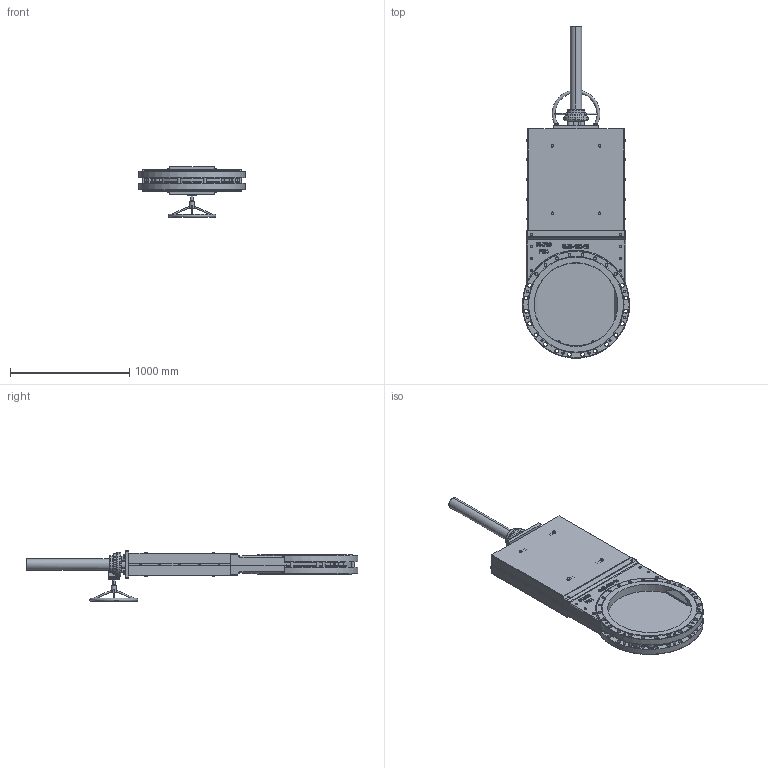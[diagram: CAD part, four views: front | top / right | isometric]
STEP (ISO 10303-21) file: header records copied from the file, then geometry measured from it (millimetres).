
FILE_DESCRIPTION(/* description */ (''),/* implementation_level */ '2;1');
FILE_NAME(/* name */ '明杆刀阀带齿轮箱DN700简图.stp',/* time_stamp */ '2025-12-22T17:52:15+08:00',/* author */ (''),/* organization */ (''),/* preprocessor_version */ 'ST-DEVELOPER v15',/* originating_system */ 'SIEMENS PLM Software NX 10.0',/* authorisation */ '');
FILE_SCHEMA (('AP203_CONFIGURATION_CONTROLLED_3D_DESIGN_OF_MECHANICAL_PARTS_AND_ASSEMBLIES_MIM_LF { 1 0 10303 403 2 1 2}'));
Products named in the file (1): 4D14B8F2lvqt
Bounding box: 896.94 x 2779.06 x 423.47 mm (x, y, z)
Volume: 101480806.2 mm3; surface area: 8448444.3 mm2
Topology: 1 solids, 55 shells, 2930 faces, 7025 edges, 4556 vertices
Faces by surface type: plane 1450, cylinder 665, cone 362, bspline 340, torus 95, sphere 16, extrusion 2
Full cylindrical faces by diameter (mm): 7.323 x10, 8 x20, 8.4 x10, 9 x10, 10.2 x8, 11.053 x8, 11.4 x10, 12 x12, 13 x8, 13.5 x2, 14 x28, 16 x54, 17 x20, 17.2 x8, 17.5 x10, 18 x28, 19.053 x4, 20 x27, 21 x8, 22 x20, 24 x28, 27 x4, 29.63 x16, 30 x20, 32 x28, 33 x16, 37 x4, 40 x5, 50 x1, 60 x1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
Entity records: 101305 total; most frequent: CARTESIAN_POINT 30017, ORIENTED_EDGE 11810, DIRECTION 11498, EDGE_CURVE 5905, AXIS2_PLACEMENT_3D 4562, EDGE_LOOP 4226, VERTEX_POINT 4171, ADVANCED_FACE 2930
